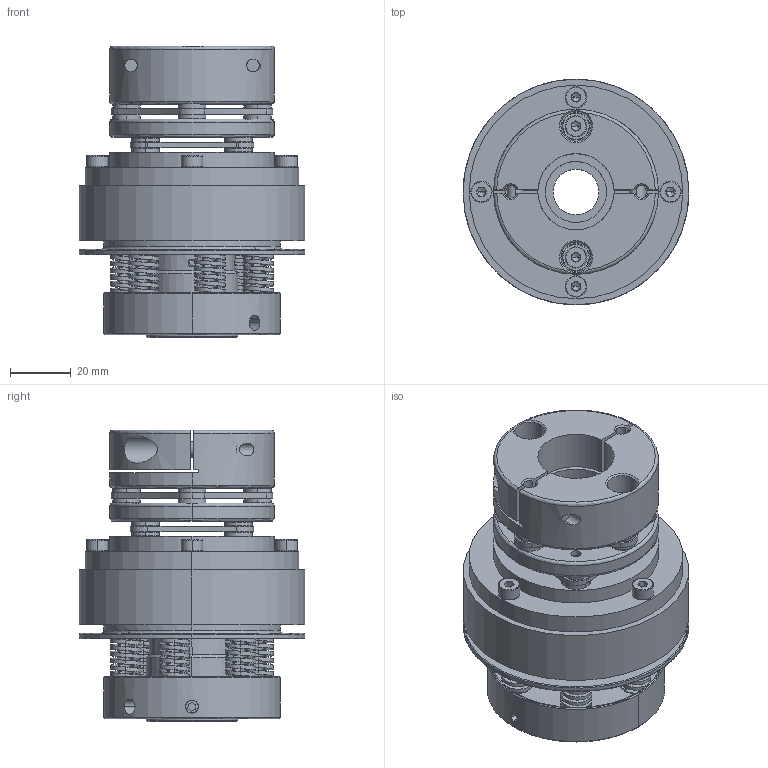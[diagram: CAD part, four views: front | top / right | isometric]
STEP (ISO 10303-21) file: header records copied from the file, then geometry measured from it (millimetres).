
FILE_DESCRIPTION (( 'STEP AP203' ), '1' );
FILE_NAME ('STL25-M-TS4.5-C25-N15.STEP', '2019-05-30T08:14:16', ( '' ), ( '' ), 'SwSTEP 2.0', 'SolidWorks 2015', '' );
FILE_SCHEMA (( 'CONFIG_CONTROL_DESIGN' ));
Length unit declared in the file: millimetre
Products named in the file (1): STL25-M-TS4.5-C25-N15
Bounding box: 74 x 74 x 95.6 mm (x, y, z)
Volume: 195016.2 mm3; surface area: 71605 mm2
Topology: 15 solids, 18 shells, 1279 faces, 3212 edges, 2012 vertices
Faces by surface type: cylinder 562, plane 365, cone 152, bspline 100, torus 100
Entity records: 77209 total; most frequent: CARTESIAN_POINT 47224, ORIENTED_EDGE 6348, DIRECTION 6157, EDGE_CURVE 3174, AXIS2_PLACEMENT_3D 2454, VERTEX_POINT 2012, EDGE_LOOP 1434, ADVANCED_FACE 1279
